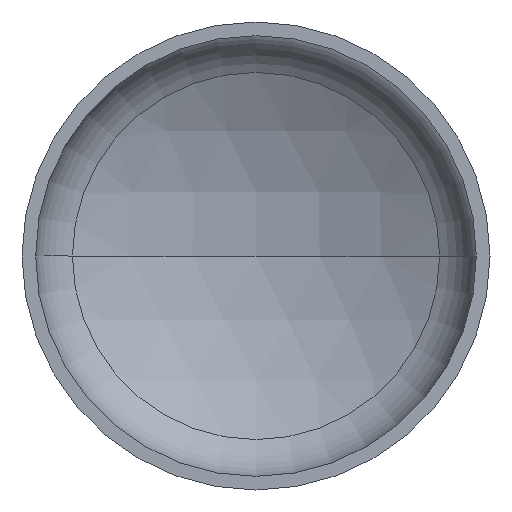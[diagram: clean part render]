
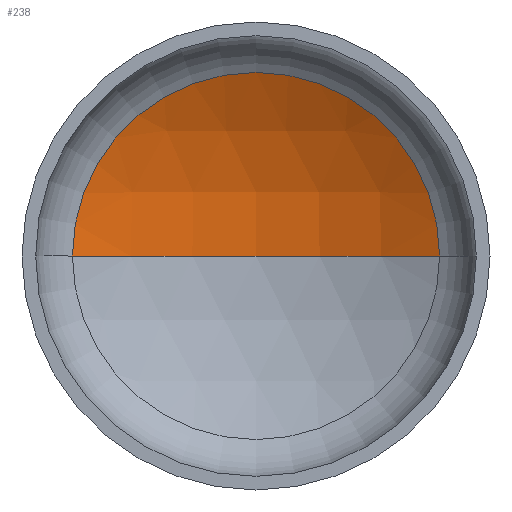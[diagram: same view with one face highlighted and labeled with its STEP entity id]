
A CAD part, front view. The second image highlights one B-rep face of the part: STEP entity #238.
In plain terms, the highlighted spherical face has radius 1920 mm.
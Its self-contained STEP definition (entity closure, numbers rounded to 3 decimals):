
#2 = DIRECTION ( 'NONE',  ( 0., 0., -1. ) ) ;
#3 = AXIS2_PLACEMENT_3D ( 'NONE', #90, #301, #120 ) ;
#9 = AXIS2_PLACEMENT_3D ( 'NONE', #358, #226, #285 ) ;
#23 = AXIS2_PLACEMENT_3D ( 'NONE', #80, #2, #200 ) ;
#51 = EDGE_LOOP ( 'NONE', ( #124, #147, #62 ) ) ;
#62 = ORIENTED_EDGE ( 'NONE', *, *, #368, .T. ) ;
#80 = CARTESIAN_POINT ( 'NONE',  ( 0., -1230.889, 0. ) ) ;
#90 = CARTESIAN_POINT ( 'NONE',  ( 0., -1230.889, 0. ) ) ;
#93 = VERTEX_POINT ( 'NONE', #261 ) ;
#112 = VERTEX_POINT ( 'NONE', #255 ) ;
#120 = DIRECTION ( 'NONE',  ( -1., 0., 0. ) ) ;
#124 = ORIENTED_EDGE ( 'NONE', *, *, #335, .F. ) ;
#147 = ORIENTED_EDGE ( 'NONE', *, *, #361, .T. ) ;
#182 = CIRCLE ( 'NONE', #250, 941.419 ) ;
#200 = DIRECTION ( 'NONE',  ( -1., 0., 0. ) ) ;
#221 = CARTESIAN_POINT ( 'NONE',  ( 941.419, 442.47, 0. ) ) ;
#226 = DIRECTION ( 'NONE',  ( 0., 0., 1. ) ) ;
#237 = DIRECTION ( 'NONE',  ( 1., 0., 0. ) ) ;
#238 = ADVANCED_FACE ( 'NONE', ( #244 ), #369, .F. ) ;
#244 = FACE_OUTER_BOUND ( 'NONE', #51, .T. ) ;
#250 = AXIS2_PLACEMENT_3D ( 'NONE', #409, #410, #237 ) ;
#252 = CIRCLE ( 'NONE', #9, 1920. ) ;
#255 = CARTESIAN_POINT ( 'NONE',  ( -941.419, 442.47, 0. ) ) ;
#261 = CARTESIAN_POINT ( 'NONE',  ( 0., 689.111, 0. ) ) ;
#285 = DIRECTION ( 'NONE',  ( 1., 0., 0. ) ) ;
#298 = VERTEX_POINT ( 'NONE', #221 ) ;
#301 = DIRECTION ( 'NONE',  ( 0., 0., -1. ) ) ;
#335 = EDGE_CURVE ( 'NONE', #93, #112, #252, .T. ) ;
#337 = CIRCLE ( 'NONE', #3, 1920. ) ;
#358 = CARTESIAN_POINT ( 'NONE',  ( 0., -1230.889, 0. ) ) ;
#361 = EDGE_CURVE ( 'NONE', #93, #298, #337, .T. ) ;
#368 = EDGE_CURVE ( 'NONE', #298, #112, #182, .T. ) ;
#369 = SPHERICAL_SURFACE ( 'NONE', #23, 1920. ) ;
#409 = CARTESIAN_POINT ( 'NONE',  ( 0., 442.47, 0. ) ) ;
#410 = DIRECTION ( 'NONE',  ( 0., -1., 0. ) ) ;
